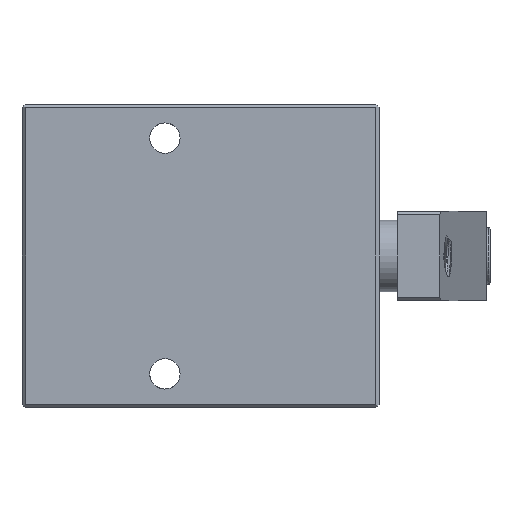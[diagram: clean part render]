
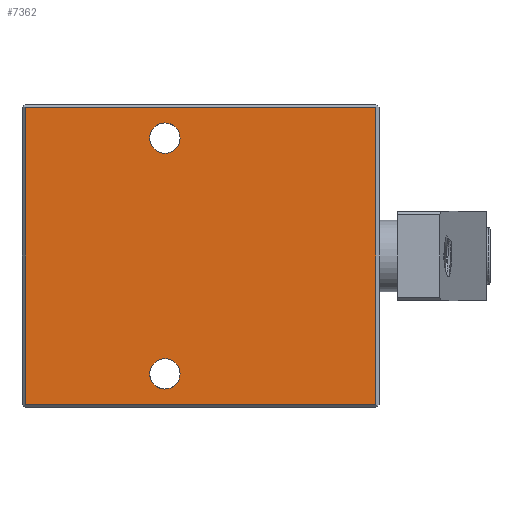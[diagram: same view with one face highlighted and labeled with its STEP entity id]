
A CAD part, front view. The second image highlights one B-rep face of the part: STEP entity #7362.
In plain terms, the highlighted planar face has unit normal (0, -1, 0).
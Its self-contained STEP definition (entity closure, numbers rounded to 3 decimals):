
#184=FACE_BOUND('',#1036,.T.);
#185=FACE_BOUND('',#1037,.T.);
#250=PLANE('',#7896);
#334=CIRCLE('',#7897,4.25);
#335=CIRCLE('',#7898,4.25);
#336=CIRCLE('',#7899,4.25);
#337=CIRCLE('',#7900,4.25);
#619=FACE_OUTER_BOUND('',#1035,.T.);
#1035=EDGE_LOOP('',(#5397,#5398,#5399,#5400));
#1036=EDGE_LOOP('',(#5401,#5402));
#1037=EDGE_LOOP('',(#5403,#5404));
#2107=LINE('',#23928,#2541);
#2109=LINE('',#23932,#2543);
#2112=LINE('',#23938,#2546);
#2113=LINE('',#23939,#2547);
#2541=VECTOR('',#8772,98.);
#2543=VECTOR('',#8776,83.);
#2546=VECTOR('',#8781,83.);
#2547=VECTOR('',#8782,98.);
#3164=VERTEX_POINT('',#23925);
#3165=VERTEX_POINT('',#23927);
#3166=VERTEX_POINT('',#23931);
#3168=VERTEX_POINT('',#23937);
#3169=VERTEX_POINT('',#23940);
#3170=VERTEX_POINT('',#23941);
#3171=VERTEX_POINT('',#23944);
#3172=VERTEX_POINT('',#23945);
#4073=EDGE_CURVE('',#3164,#3165,#2107,.T.);
#4075=EDGE_CURVE('',#3165,#3166,#2109,.T.);
#4078=EDGE_CURVE('',#3168,#3164,#2112,.T.);
#4079=EDGE_CURVE('',#3168,#3166,#2113,.T.);
#4080=EDGE_CURVE('',#3169,#3170,#334,.T.);
#4081=EDGE_CURVE('',#3170,#3169,#335,.T.);
#4082=EDGE_CURVE('',#3171,#3172,#336,.T.);
#4083=EDGE_CURVE('',#3172,#3171,#337,.T.);
#5397=ORIENTED_EDGE('',*,*,#4078,.F.);
#5398=ORIENTED_EDGE('',*,*,#4079,.T.);
#5399=ORIENTED_EDGE('',*,*,#4075,.F.);
#5400=ORIENTED_EDGE('',*,*,#4073,.F.);
#5401=ORIENTED_EDGE('',*,*,#4080,.T.);
#5402=ORIENTED_EDGE('',*,*,#4081,.T.);
#5403=ORIENTED_EDGE('',*,*,#4082,.T.);
#5404=ORIENTED_EDGE('',*,*,#4083,.T.);
#7362=ADVANCED_FACE('',(#619,#184,#185),#250,.T.);
#7896=AXIS2_PLACEMENT_3D('',#23936,#8779,#8780);
#7897=AXIS2_PLACEMENT_3D('',#23942,#8783,#8784);
#7898=AXIS2_PLACEMENT_3D('',#23943,#8785,#8786);
#7899=AXIS2_PLACEMENT_3D('',#23946,#8787,#8788);
#7900=AXIS2_PLACEMENT_3D('',#23947,#8789,#8790);
#8772=DIRECTION('',(-1.,0.,0.));
#8776=DIRECTION('',(0.,0.,1.));
#8779=DIRECTION('center_axis',(0.,-1.,0.));
#8780=DIRECTION('ref_axis',(0.,0.,-1.));
#8781=DIRECTION('',(0.,0.,-1.));
#8782=DIRECTION('',(-1.,0.,0.));
#8783=DIRECTION('center_axis',(0.,1.,0.));
#8784=DIRECTION('ref_axis',(0.,0.,1.));
#8785=DIRECTION('center_axis',(0.,1.,0.));
#8786=DIRECTION('ref_axis',(0.,0.,1.));
#8787=DIRECTION('center_axis',(0.,1.,0.));
#8788=DIRECTION('ref_axis',(0.,0.,1.));
#8789=DIRECTION('center_axis',(0.,1.,0.));
#8790=DIRECTION('ref_axis',(0.,0.,1.));
#23925=CARTESIAN_POINT('',(99.,-30.,-41.5));
#23927=CARTESIAN_POINT('',(1.,-30.,-41.5));
#23928=CARTESIAN_POINT('',(99.,-30.,-41.5));
#23931=CARTESIAN_POINT('',(1.,-30.,41.5));
#23932=CARTESIAN_POINT('',(1.,-30.,-41.5));
#23936=CARTESIAN_POINT('Origin',(0.,-30.,42.5));
#23937=CARTESIAN_POINT('',(99.,-30.,41.5));
#23938=CARTESIAN_POINT('',(99.,-30.,41.5));
#23939=CARTESIAN_POINT('',(99.,-30.,41.5));
#23940=CARTESIAN_POINT('',(40.,-30.,-28.75));
#23941=CARTESIAN_POINT('',(40.,-30.,-37.25));
#23942=CARTESIAN_POINT('Origin',(40.,-30.,-33.));
#23943=CARTESIAN_POINT('Origin',(40.,-30.,-33.));
#23944=CARTESIAN_POINT('',(40.,-30.,37.25));
#23945=CARTESIAN_POINT('',(40.,-30.,28.75));
#23946=CARTESIAN_POINT('Origin',(40.,-30.,33.));
#23947=CARTESIAN_POINT('Origin',(40.,-30.,33.));
